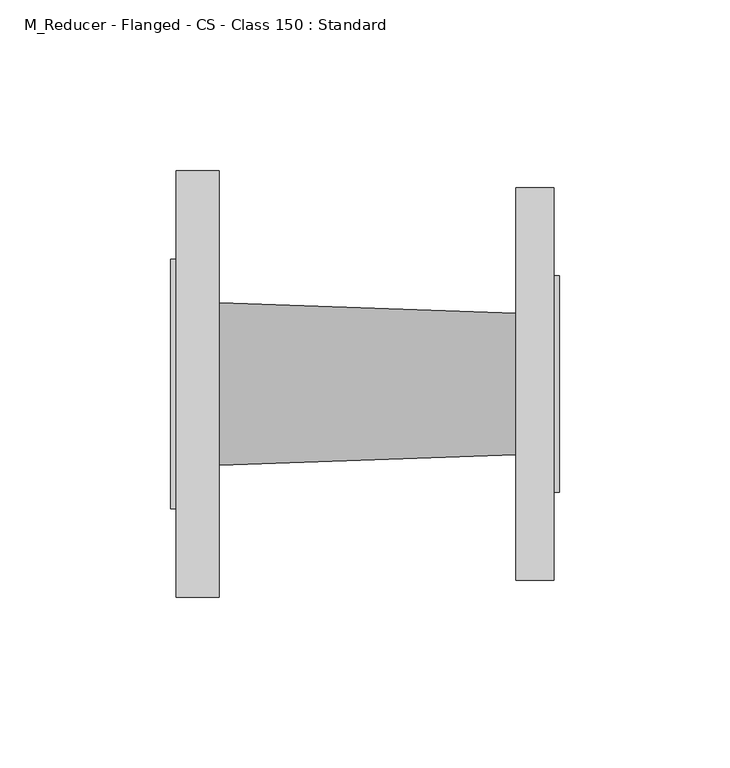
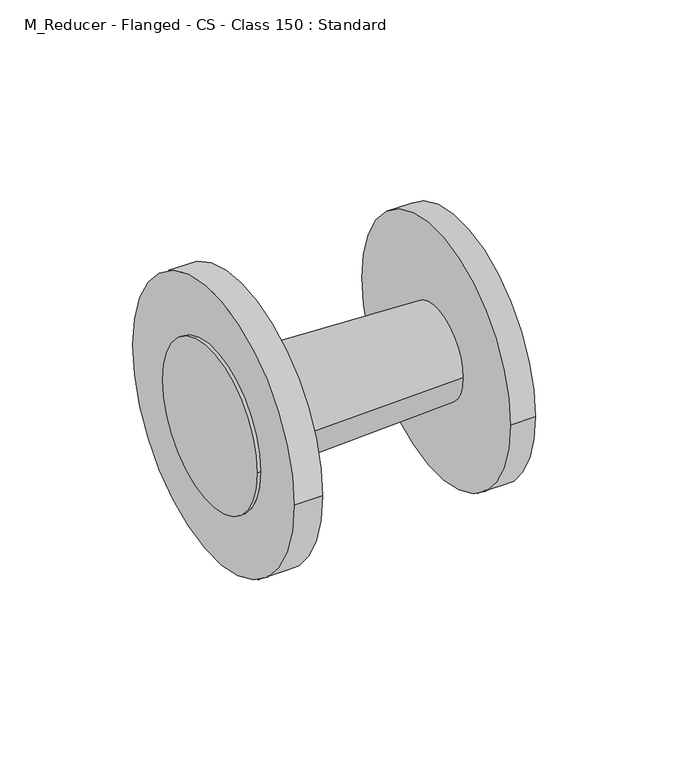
"""IFC4 building model written with IfcOpenShell, lengths in millimetres: pipe fitting geometry, M_Reducer - Flanged - CS - Class 150 : Standard."""

from ifc_helpers import new_model, si_unit, frame, origin, place, context, project, spatial, polyline, circle_curve, source, transform, mapped, element, save
from ifc_brep_helpers import plane_surface, cylinder_surface, revolved_surface, advanced_brep


def m_reducer_flanged_cs_class_150_standard_564df86d(model_context):
    return source(origin(), model_context, "Body", "AdvancedBrep", [
        advanced_brep(
        [(14.2875, -62.5, 0.0), (14.2875, 62.5, 0.0), (14.2875, 23.8, 0.0), (14.2875, -23.8, 0.0), (1.5875, -62.5, 0.0), (1.5875, 62.5, 0.0), (1.5875, -36.5, 0.0), (1.5875, 36.5, 0.0), (101.2125, 20.8, 0.0), (101.2125, -20.8, 0.0), (112.4125, -57.5, 0.0), (112.4125, 57.5, 0.0), (112.4125, 31.75, 0.0), (112.4125, -31.75, 0.0), (101.2125, -57.5, 0.0), (101.2125, 57.5, 0.0), (0.0, -36.5, 0.0), (0.0, 36.5, 0.0), (114.0, -31.75, 0.0), (114.0, 31.75, 0.0)],
        [
            (0, 1, circle_curve(frame((14.2875, 0.0, 0.0), z_axis=(1.0, 0.0, 0.0), x_axis=(0.0, 1.0, 0.0)), 62.5)),
            (1, 0, circle_curve(frame((14.2875, 0.0, 0.0), z_axis=(1.0, 0.0, 0.0), x_axis=(0.0, 1.0, 0.0)), 62.5)),
            (2, 3, circle_curve(frame((14.2875, 0.0, 0.0), z_axis=(-1.0, 0.0, 0.0), x_axis=(0.0, -1.0, 0.0)), 23.8)),
            (3, 2, circle_curve(frame((14.2875, 0.0, 0.0), z_axis=(-1.0, 0.0, 0.0), x_axis=(0.0, 1.0, 0.0)), 23.8)),
            (4, 5, circle_curve(frame((1.5875, 0.0, 0.0), z_axis=(-1.0, 0.0, 0.0), x_axis=(0.0, 1.0, 0.0)), 62.5)),
            (5, 4, circle_curve(frame((1.5875, 0.0, 0.0), z_axis=(-1.0, 0.0, 0.0), x_axis=(0.0, 1.0, 0.0)), 62.5)),
            (6, 7, circle_curve(frame((1.5875, 0.0, 0.0), z_axis=(1.0, 0.0, 0.0), x_axis=(0.0, 1.0, 0.0)), 36.5)),
            (7, 6, circle_curve(frame((1.5875, 0.0, 0.0), z_axis=(1.0, 0.0, 0.0), x_axis=(0.0, 1.0, 0.0)), 36.5)),
            (0, 4),
            (5, 1),
            (2, 8),
            (8, 9, circle_curve(frame((101.2125, 0.0, 0.0), z_axis=(-1.0, 0.0, 0.0), x_axis=(0.0, -1.0, 0.0)), 20.8)),
            (9, 3),
            (9, 8, circle_curve(frame((101.2125, 0.0, 0.0), z_axis=(-1.0, 0.0, 0.0), x_axis=(0.0, 1.0, 0.0)), 20.8)),
            (10, 11, circle_curve(frame((112.4125, 0.0, 0.0), z_axis=(1.0, 0.0, 0.0), x_axis=(0.0, 1.0, 0.0)), 57.5)),
            (11, 10, circle_curve(frame((112.4125, 0.0, 0.0), z_axis=(1.0, 0.0, 0.0), x_axis=(0.0, 1.0, 0.0)), 57.5)),
            (12, 13, circle_curve(frame((112.4125, 0.0, 0.0), z_axis=(-1.0, 0.0, 0.0), x_axis=(0.0, 1.0, 0.0)), 31.75)),
            (13, 12, circle_curve(frame((112.4125, 0.0, 0.0), z_axis=(-1.0, 0.0, 0.0), x_axis=(0.0, 1.0, 0.0)), 31.75)),
            (14, 15, circle_curve(frame((101.2125, 0.0, 0.0), z_axis=(-1.0, 0.0, 0.0), x_axis=(0.0, 1.0, 0.0)), 57.5)),
            (15, 14, circle_curve(frame((101.2125, 0.0, 0.0), z_axis=(-1.0, 0.0, 0.0), x_axis=(0.0, 1.0, 0.0)), 57.5)),
            (10, 14),
            (15, 11),
            (16, 17, circle_curve(frame((0.0, 0.0, 0.0), z_axis=(-1.0, 0.0, 0.0), x_axis=(0.0, 1.0, 0.0)), 36.5)),
            (17, 16, circle_curve(frame((0.0, 0.0, 0.0), z_axis=(-1.0, 0.0, 0.0), x_axis=(0.0, 1.0, 0.0)), 36.5)),
            (17, 7),
            (6, 16),
            (18, 19, circle_curve(frame((114.0, 0.0, 0.0), z_axis=(1.0, 0.0, 0.0), x_axis=(0.0, 1.0, 0.0)), 31.75)),
            (19, 18, circle_curve(frame((114.0, 0.0, 0.0), z_axis=(1.0, 0.0, 0.0), x_axis=(0.0, 1.0, 0.0)), 31.75)),
            (18, 13),
            (12, 19),
        ],
        [
            plane_surface(frame((14.2875, 62.5, 0.0), z_axis=(1.0, 0.0, 0.0), x_axis=(0.0, 0.0, 1.0))),
            plane_surface(frame((1.5875, 62.5, 0.0), z_axis=(-1.0, 0.0, 0.0), x_axis=(0.0, 0.0, -1.0))),
            cylinder_surface(frame((1.5875, 0.0, 0.0), z_axis=(1.0, 0.0, 0.0), x_axis=(0.0, 1.0, 0.0)), 62.5),
            revolved_surface(polyline([(101.21249999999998, 20.800000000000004, 0.0), (14.287500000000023, 23.8, 0.0)]), (703.8925, 0.0, 0.0), (-1.0, 0.0, 0.0)),
            plane_surface(frame((112.4125, 57.5, 0.0), z_axis=(1.0, 0.0, 0.0), x_axis=(0.0, 0.0, 1.0))),
            plane_surface(frame((101.2125, 57.5, 0.0), z_axis=(-1.0, 0.0, 0.0), x_axis=(0.0, 0.0, -1.0))),
            cylinder_surface(frame((101.2125, 0.0, 0.0), z_axis=(1.0, 0.0, 0.0), x_axis=(0.0, 1.0, 0.0)), 57.5),
            plane_surface(frame((0.0, 36.5, 0.0), z_axis=(-1.0, 0.0, 0.0), x_axis=(0.0, 0.0, -1.0))),
            cylinder_surface(frame((0.0, 0.0, 0.0), z_axis=(1.0, 0.0, 0.0), x_axis=(0.0, 1.0, 0.0)), 36.5),
            plane_surface(frame((114.0, 31.75, 0.0), z_axis=(1.0, 0.0, 0.0), x_axis=(0.0, 0.0, 1.0))),
            cylinder_surface(frame((112.4125, 0.0, 0.0), z_axis=(1.0, 0.0, 0.0), x_axis=(0.0, 1.0, 0.0)), 31.75),
        ],
        [
            (0, [[1, 2], [3, 4]]),
            (1, [[5, 6], [7, 8]]),
            (2, [[-1, 9, -6, 10]]),
            (2, [[-2, -10, -5, -9]]),
            (3, [[11, 12, 13, -3]]),
            (3, [[-11, -4, -13, 14]]),
            (4, [[15, 16], [17, 18]]),
            (5, [[19, 20], [-12, -14]]),
            (6, [[-15, 21, -20, 22]]),
            (6, [[-16, -22, -19, -21]]),
            (7, [[23, 24]]),
            (8, [[-24, 25, -7, 26]]),
            (8, [[-23, -26, -8, -25]]),
            (9, [[27, 28]]),
            (10, [[-27, 29, -17, 30]]),
            (10, [[-28, -30, -18, -29]]),
        ],
    ),
    ])


if __name__ == "__main__":
    model = new_model("IFC4")
    model_context = context("Model", 3, world=origin())
    ifc_project = project(units=[si_unit("LENGTHUNIT", "METRE", prefix="MILLI")], contexts=[model_context])
    site = spatial("IfcSite", under=ifc_project)
    building = spatial("IfcBuilding", under=site)
    placement = place(None, origin())
    m_reducer_flanged_cs_class_150_standard_shape = m_reducer_flanged_cs_class_150_standard_564df86d(model_context)
    element("IfcPipeFitting", 1, ObjectType="M_Reducer - Flanged - CS - Class 150 : Standard", at=placement, inside=building, context=model_context, shape_type="MappedRepresentation", body=[
        mapped(m_reducer_flanged_cs_class_150_standard_shape, transform((0.0, 0.0, 0.0), x_axis=(1.0, 0.0, 0.0), y_axis=(0.0, 1.0, 0.0), z_axis=(0.0, 0.0, 1.0))),
    ])
    save(model, "model.ifc")
